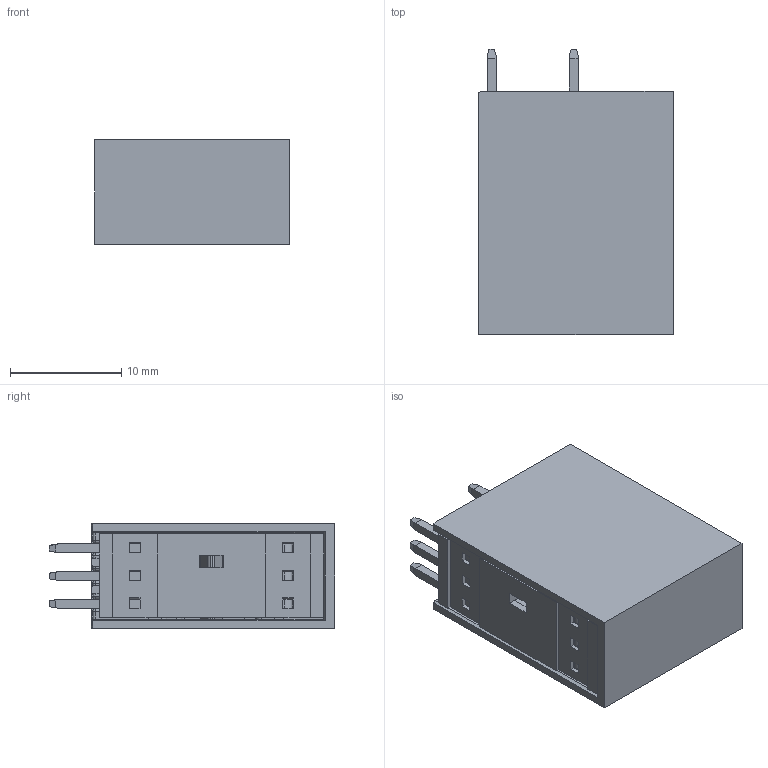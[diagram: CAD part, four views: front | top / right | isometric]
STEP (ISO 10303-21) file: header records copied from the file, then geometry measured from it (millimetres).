
FILE_DESCRIPTION((''),'2;1');
FILE_NAME('VL06B1510000G','2021-05-08T',('renkang.li'),(''),'CREO PARAMETRIC BY PTC INC, 2016260','CREO PARAMETRIC BY PTC INC, 2016260','');
FILE_SCHEMA(('CONFIG_CONTROL_DESIGN'));
Length unit declared in the file: millimetre
Products named in the file (1): VL06B1510000G
Bounding box: 17.5 x 25.69 x 9.4 mm (x, y, z)
Volume: 1748.7 mm3; surface area: 4401.6 mm2
Topology: 1 solids, 13 shells, 987 faces, 2722 edges, 1701 vertices
Faces by surface type: plane 785, cylinder 123, cone 38, torus 26, extrusion 9, sphere 6
Entity records: 30703 total; most frequent: CARTESIAN_POINT 5551, ORIENTED_EDGE 5380, DIRECTION 4951, EDGE_CURVE 2690, VECTOR 2323, LINE 2314, VERTEX_POINT 1701, AXIS2_PLACEMENT_3D 1314
